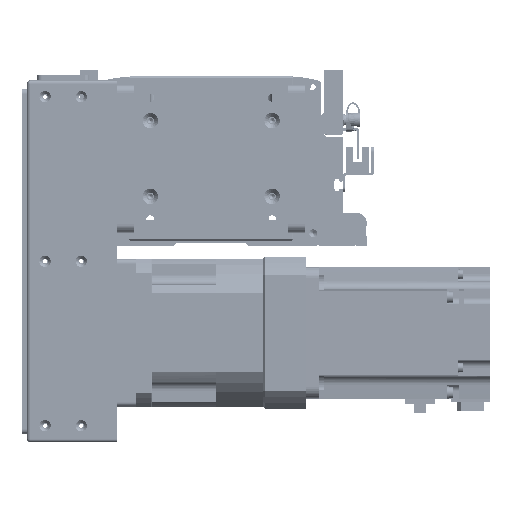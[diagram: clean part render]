
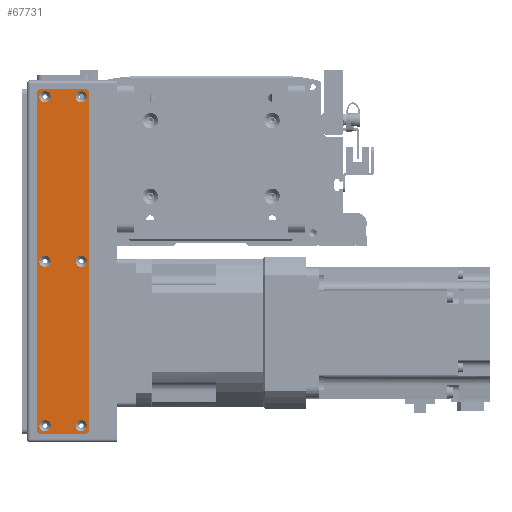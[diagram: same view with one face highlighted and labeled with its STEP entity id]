
A CAD part, front view. The second image highlights one B-rep face of the part: STEP entity #67731.
In plain terms, the highlighted planar face has unit normal (0, -1, 0).
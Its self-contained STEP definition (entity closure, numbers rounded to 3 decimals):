
#1858=FACE_BOUND('',#14140,.T.);
#1859=FACE_BOUND('',#14141,.T.);
#1860=FACE_BOUND('',#14142,.T.);
#1861=FACE_BOUND('',#14143,.T.);
#1862=FACE_BOUND('',#14144,.T.);
#1863=FACE_BOUND('',#14145,.T.);
#3955=PLANE('',#74966);
#9801=FACE_OUTER_BOUND('',#14139,.T.);
#14139=EDGE_LOOP('',(#63813,#63814,#63815,#63816,#63817,#63818,#63819,#63820));
#14140=EDGE_LOOP('',(#63821));
#14141=EDGE_LOOP('',(#63822));
#14142=EDGE_LOOP('',(#63823));
#14143=EDGE_LOOP('',(#63824));
#14144=EDGE_LOOP('',(#63825));
#14145=EDGE_LOOP('',(#63826));
#20399=LINE('',#116640,#26652);
#20400=LINE('',#116644,#26653);
#20401=LINE('',#116648,#26654);
#20402=LINE('',#116651,#26655);
#26652=VECTOR('',#94348,10.);
#26653=VECTOR('',#94351,10.);
#26654=VECTOR('',#94354,10.);
#26655=VECTOR('',#94357,10.);
#29283=CIRCLE('',#74934,3.45);
#29286=CIRCLE('',#74939,3.45);
#29289=CIRCLE('',#74944,3.45);
#29292=CIRCLE('',#74949,3.45);
#29295=CIRCLE('',#74954,3.45);
#29298=CIRCLE('',#74959,3.45);
#29301=CIRCLE('',#74964,3.);
#29303=CIRCLE('',#74967,3.);
#29304=CIRCLE('',#74968,3.);
#29305=CIRCLE('',#74969,3.);
#35518=VERTEX_POINT('',#116570);
#35521=VERTEX_POINT('',#116580);
#35524=VERTEX_POINT('',#116590);
#35527=VERTEX_POINT('',#116600);
#35530=VERTEX_POINT('',#116610);
#35533=VERTEX_POINT('',#116620);
#35536=VERTEX_POINT('',#116630);
#35537=VERTEX_POINT('',#116631);
#35540=VERTEX_POINT('',#116639);
#35541=VERTEX_POINT('',#116641);
#35542=VERTEX_POINT('',#116643);
#35543=VERTEX_POINT('',#116645);
#35544=VERTEX_POINT('',#116647);
#35545=VERTEX_POINT('',#116649);
#44937=EDGE_CURVE('',#35518,#35518,#29283,.T.);
#44942=EDGE_CURVE('',#35521,#35521,#29286,.T.);
#44947=EDGE_CURVE('',#35524,#35524,#29289,.T.);
#44952=EDGE_CURVE('',#35527,#35527,#29292,.T.);
#44957=EDGE_CURVE('',#35530,#35530,#29295,.T.);
#44962=EDGE_CURVE('',#35533,#35533,#29298,.T.);
#44967=EDGE_CURVE('',#35536,#35537,#29301,.T.);
#44971=EDGE_CURVE('',#35536,#35540,#20399,.T.);
#44972=EDGE_CURVE('',#35541,#35540,#29303,.T.);
#44973=EDGE_CURVE('',#35541,#35542,#20400,.T.);
#44974=EDGE_CURVE('',#35543,#35542,#29304,.T.);
#44975=EDGE_CURVE('',#35543,#35544,#20401,.T.);
#44976=EDGE_CURVE('',#35545,#35544,#29305,.T.);
#44977=EDGE_CURVE('',#35545,#35537,#20402,.T.);
#63813=ORIENTED_EDGE('',*,*,#44967,.F.);
#63814=ORIENTED_EDGE('',*,*,#44971,.T.);
#63815=ORIENTED_EDGE('',*,*,#44972,.F.);
#63816=ORIENTED_EDGE('',*,*,#44973,.T.);
#63817=ORIENTED_EDGE('',*,*,#44974,.F.);
#63818=ORIENTED_EDGE('',*,*,#44975,.T.);
#63819=ORIENTED_EDGE('',*,*,#44976,.F.);
#63820=ORIENTED_EDGE('',*,*,#44977,.T.);
#63821=ORIENTED_EDGE('',*,*,#44937,.T.);
#63822=ORIENTED_EDGE('',*,*,#44942,.T.);
#63823=ORIENTED_EDGE('',*,*,#44947,.T.);
#63824=ORIENTED_EDGE('',*,*,#44952,.T.);
#63825=ORIENTED_EDGE('',*,*,#44957,.T.);
#63826=ORIENTED_EDGE('',*,*,#44962,.T.);
#67731=ADVANCED_FACE('',(#9801,#1858,#1859,#1860,#1861,#1862,#1863),#3955,
 .T.);
#74934=AXIS2_PLACEMENT_3D('',#116571,#94268,#94269);
#74939=AXIS2_PLACEMENT_3D('',#116581,#94280,#94281);
#74944=AXIS2_PLACEMENT_3D('',#116591,#94292,#94293);
#74949=AXIS2_PLACEMENT_3D('',#116601,#94304,#94305);
#74954=AXIS2_PLACEMENT_3D('',#116611,#94316,#94317);
#74959=AXIS2_PLACEMENT_3D('',#116621,#94328,#94329);
#74964=AXIS2_PLACEMENT_3D('',#116632,#94340,#94341);
#74966=AXIS2_PLACEMENT_3D('',#116638,#94346,#94347);
#74967=AXIS2_PLACEMENT_3D('',#116642,#94349,#94350);
#74968=AXIS2_PLACEMENT_3D('',#116646,#94352,#94353);
#74969=AXIS2_PLACEMENT_3D('',#116650,#94355,#94356);
#94268=DIRECTION('center_axis',(0.,1.,0.));
#94269=DIRECTION('ref_axis',(1.,0.,0.));
#94280=DIRECTION('center_axis',(0.,1.,0.));
#94281=DIRECTION('ref_axis',(1.,0.,0.));
#94292=DIRECTION('center_axis',(0.,1.,0.));
#94293=DIRECTION('ref_axis',(1.,0.,0.));
#94304=DIRECTION('center_axis',(0.,1.,0.));
#94305=DIRECTION('ref_axis',(1.,0.,0.));
#94316=DIRECTION('center_axis',(0.,1.,0.));
#94317=DIRECTION('ref_axis',(1.,0.,0.));
#94328=DIRECTION('center_axis',(0.,1.,0.));
#94329=DIRECTION('ref_axis',(1.,0.,0.));
#94340=DIRECTION('center_axis',(0.,1.,0.));
#94341=DIRECTION('ref_axis',(-0.707,0.,0.707));
#94346=DIRECTION('center_axis',(0.,-1.,0.));
#94347=DIRECTION('ref_axis',(0.,0.,-1.));
#94348=DIRECTION('',(0.,0.,-1.));
#94349=DIRECTION('center_axis',(0.,1.,0.));
#94350=DIRECTION('ref_axis',(-0.707,0.,-0.707));
#94351=DIRECTION('',(1.,0.,0.));
#94352=DIRECTION('center_axis',(0.,1.,0.));
#94353=DIRECTION('ref_axis',(0.707,0.,-0.707));
#94354=DIRECTION('',(0.,0.,1.));
#94355=DIRECTION('center_axis',(0.,1.,0.));
#94356=DIRECTION('ref_axis',(0.707,0.,0.707));
#94357=DIRECTION('',(-1.,0.,0.));
#116570=CARTESIAN_POINT('',(96.55,-1.5,11.));
#116571=CARTESIAN_POINT('Origin',(100.,-1.5,11.));
#116580=CARTESIAN_POINT('',(-103.45,-1.5,-11.));
#116581=CARTESIAN_POINT('Origin',(-100.,-1.5,-11.));
#116590=CARTESIAN_POINT('',(-3.45,-1.5,11.));
#116591=CARTESIAN_POINT('Origin',(0.,-1.5,11.));
#116600=CARTESIAN_POINT('',(-3.45,-1.5,-11.));
#116601=CARTESIAN_POINT('Origin',(0.,-1.5,-11.));
#116610=CARTESIAN_POINT('',(-103.45,-1.5,11.));
#116611=CARTESIAN_POINT('Origin',(-100.,-1.5,11.));
#116620=CARTESIAN_POINT('',(96.55,-1.5,-11.));
#116621=CARTESIAN_POINT('Origin',(100.,-1.5,-11.));
#116630=CARTESIAN_POINT('',(-105.,-1.5,13.));
#116631=CARTESIAN_POINT('',(-102.,-1.5,16.));
#116632=CARTESIAN_POINT('Origin',(-102.,-1.5,13.));
#116638=CARTESIAN_POINT('Origin',(0.,-1.5,0.));
#116639=CARTESIAN_POINT('',(-105.,-1.5,-13.));
#116640=CARTESIAN_POINT('',(-105.,-1.5,16.));
#116641=CARTESIAN_POINT('',(-102.,-1.5,-16.));
#116642=CARTESIAN_POINT('Origin',(-102.,-1.5,-13.));
#116643=CARTESIAN_POINT('',(102.,-1.5,-16.));
#116644=CARTESIAN_POINT('',(-105.,-1.5,-16.));
#116645=CARTESIAN_POINT('',(105.,-1.5,-13.));
#116646=CARTESIAN_POINT('Origin',(102.,-1.5,-13.));
#116647=CARTESIAN_POINT('',(105.,-1.5,13.));
#116648=CARTESIAN_POINT('',(105.,-1.5,-16.));
#116649=CARTESIAN_POINT('',(102.,-1.5,16.));
#116650=CARTESIAN_POINT('Origin',(102.,-1.5,13.));
#116651=CARTESIAN_POINT('',(105.,-1.5,16.));
